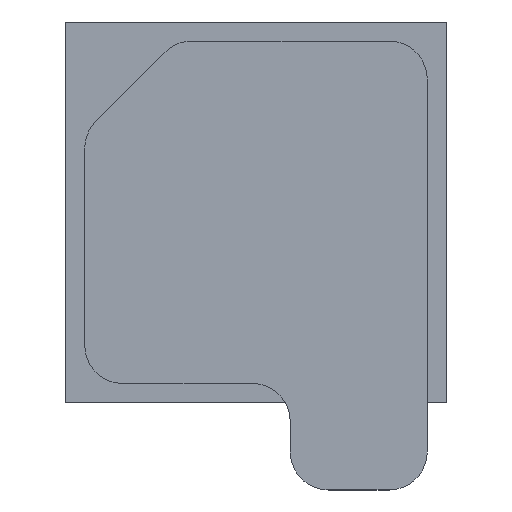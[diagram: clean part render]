
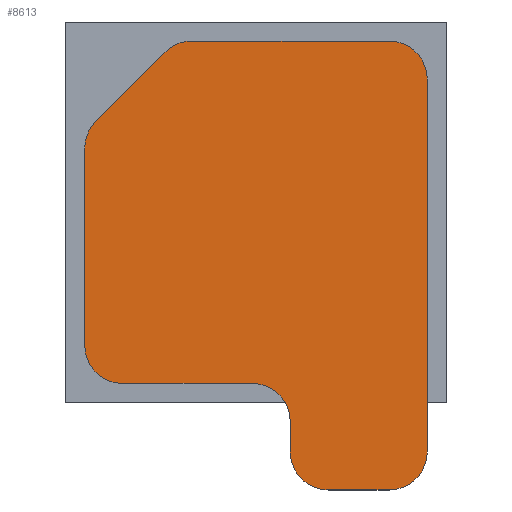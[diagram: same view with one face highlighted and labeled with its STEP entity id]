
A CAD part, top view. The second image highlights one B-rep face of the part: STEP entity #8613.
In plain terms, the highlighted planar face has unit normal (0, 0, 1) as drawn and (0, 1, 0) by its records, which use the part's own axes.
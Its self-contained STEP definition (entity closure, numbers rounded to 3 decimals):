
#8230=CARTESIAN_POINT('',(0.875,0.086,0.875));
#8231=DIRECTION('',(0.,1.,0.));
#8232=DIRECTION('',(0.,0.,1.));
#8233=AXIS2_PLACEMENT_3D('',#8230,#8231,#8232);
#8238=DIRECTION('',(1.,0.,0.));
#8239=VECTOR('',#8238,1.296);
#8240=CARTESIAN_POINT('',(-0.421,0.086,1.125));
#8241=LINE('',#8240,#8239);
#8245=CARTESIAN_POINT('',(-0.421,0.086,0.875));
#8246=DIRECTION('',(0.,1.,0.));
#8247=DIRECTION('',(-0.707,0.,0.707));
#8248=AXIS2_PLACEMENT_3D('',#8245,#8246,#8247);
#8253=DIRECTION('',(0.707,0.,0.707));
#8254=VECTOR('',#8253,0.641);
#8255=CARTESIAN_POINT('',(-1.052,0.086,0.598));
#8256=LINE('',#8255,#8254);
#8260=CARTESIAN_POINT('',(-0.875,0.086,0.421));
#8261=DIRECTION('',(0.,1.,0.));
#8262=DIRECTION('',(-1.,0.,0.));
#8263=AXIS2_PLACEMENT_3D('',#8260,#8261,#8262);
#8268=DIRECTION('',(0.,0.,1.));
#8269=VECTOR('',#8268,1.296);
#8270=CARTESIAN_POINT('',(-1.125,0.086,-0.875));
#8271=LINE('',#8270,#8269);
#8275=CARTESIAN_POINT('',(-0.875,0.086,-0.875));
#8276=DIRECTION('',(0.,1.,0.));
#8277=DIRECTION('',(0.,0.,-1.));
#8278=AXIS2_PLACEMENT_3D('',#8275,#8276,#8277);
#8283=DIRECTION('',(1.,0.,0.));
#8284=VECTOR('',#8283,2.45);
#8285=CARTESIAN_POINT('',(-0.875,0.086,-1.125));
#8286=LINE('',#8285,#8284);
#8290=CARTESIAN_POINT('',(1.575,0.086,-0.875));
#8291=DIRECTION('',(0.,1.,0.));
#8292=DIRECTION('',(1.,0.,0.));
#8293=AXIS2_PLACEMENT_3D('',#8290,#8291,#8292);
#8298=DIRECTION('',(0.,0.,-1.));
#8299=VECTOR('',#8298,0.4);
#8300=CARTESIAN_POINT('',(1.825,0.086,-0.475));
#8301=LINE('',#8300,#8299);
#8305=CARTESIAN_POINT('',(1.575,0.086,-0.475));
#8306=DIRECTION('',(0.,1.,0.));
#8307=DIRECTION('',(0.,0.,1.));
#8308=AXIS2_PLACEMENT_3D('',#8305,#8306,#8307);
#8313=DIRECTION('',(1.,0.,0.));
#8314=VECTOR('',#8313,0.2);
#8315=CARTESIAN_POINT('',(1.375,0.086,-0.225));
#8316=LINE('',#8315,#8314);
#8320=DIRECTION('',(0.,0.,-1.));
#8321=VECTOR('',#8320,0.85);
#8322=CARTESIAN_POINT('',(1.125,0.086,0.875));
#8323=LINE('',#8322,#8321);
#8390=CARTESIAN_POINT('',(1.375,0.086,0.025));
#8391=DIRECTION('',(0.,-1.,0.));
#8392=DIRECTION('',(-1.,0.,0.));
#8393=AXIS2_PLACEMENT_3D('',#8390,#8391,#8392);
#8420=CARTESIAN_POINT('',(1.125,0.086,0.025));
#8422=VERTEX_POINT('',#8420);
#8424=CARTESIAN_POINT('',(1.375,0.086,-0.225));
#8426=VERTEX_POINT('',#8424);
#8432=CARTESIAN_POINT('',(0.875,0.086,1.125));
#8433=VERTEX_POINT('',#8432);
#8434=CARTESIAN_POINT('',(1.125,0.086,0.875));
#8435=VERTEX_POINT('',#8434);
#8440=CARTESIAN_POINT('',(1.825,0.086,-0.875));
#8441=VERTEX_POINT('',#8440);
#8442=CARTESIAN_POINT('',(1.575,0.086,-1.125));
#8443=VERTEX_POINT('',#8442);
#8448=CARTESIAN_POINT('',(1.575,0.086,-0.225));
#8449=VERTEX_POINT('',#8448);
#8450=CARTESIAN_POINT('',(1.825,0.086,-0.475));
#8451=VERTEX_POINT('',#8450);
#8456=CARTESIAN_POINT('',(-1.125,0.086,-0.875));
#8457=CARTESIAN_POINT('',(-1.125,0.086,0.421));
#8458=VERTEX_POINT('',#8456);
#8459=VERTEX_POINT('',#8457);
#8462=CARTESIAN_POINT('',(-0.421,0.086,1.125));
#8463=VERTEX_POINT('',#8462);
#8466=CARTESIAN_POINT('',(-0.875,0.086,-1.125));
#8467=VERTEX_POINT('',#8466);
#8470=CARTESIAN_POINT('',(-0.598,0.086,1.052));
#8471=VERTEX_POINT('',#8470);
#8472=CARTESIAN_POINT('',(-1.052,0.086,0.598));
#8473=VERTEX_POINT('',#8472);
#8583=CARTESIAN_POINT('',(0.,0.086,0.));
#8584=DIRECTION('',(0.,1.,0.));
#8585=DIRECTION('',(1.,0.,0.));
#8586=AXIS2_PLACEMENT_3D('',#8583,#8584,#8585);
#8587=PLANE('',#8586);
#8588=ORIENTED_EDGE('',*,*,#8520,.F.);
#8589=ORIENTED_EDGE('',*,*,#8536,.F.);
#8590=ORIENTED_EDGE('',*,*,#8549,.F.);
#8591=ORIENTED_EDGE('',*,*,#8564,.F.);
#8592=ORIENTED_EDGE('',*,*,#8574,.F.);
#8594=ORIENTED_EDGE('',*,*,#8593,.F.);
#8596=ORIENTED_EDGE('',*,*,#8595,.F.);
#8598=ORIENTED_EDGE('',*,*,#8597,.T.);
#8600=ORIENTED_EDGE('',*,*,#8599,.F.);
#8602=ORIENTED_EDGE('',*,*,#8601,.F.);
#8604=ORIENTED_EDGE('',*,*,#8603,.F.);
#8606=ORIENTED_EDGE('',*,*,#8605,.F.);
#8608=ORIENTED_EDGE('',*,*,#8607,.F.);
#8610=ORIENTED_EDGE('',*,*,#8609,.F.);
#8611=EDGE_LOOP('',(#8588,#8589,#8590,#8591,#8592,#8594,#8596,#8598,#8600,#8602,
#8604,#8606,#8608,#8610));
#8612=FACE_OUTER_BOUND('',#8611,.F.);
#8613=ADVANCED_FACE('',(#8612),#8587,.T.);
#8234=CIRCLE('',#8233,0.25);
#8249=CIRCLE('',#8248,0.25);
#8264=CIRCLE('',#8263,0.25);
#8279=CIRCLE('',#8278,0.25);
#8294=CIRCLE('',#8293,0.25);
#8309=CIRCLE('',#8308,0.25);
#8394=CIRCLE('',#8393,0.25);
#8520=EDGE_CURVE('',#8433,#8435,#8234,.T.);
#8536=EDGE_CURVE('',#8463,#8433,#8241,.T.);
#8549=EDGE_CURVE('',#8471,#8463,#8249,.T.);
#8564=EDGE_CURVE('',#8473,#8471,#8256,.T.);
#8574=EDGE_CURVE('',#8459,#8473,#8264,.T.);
#8593=EDGE_CURVE('',#8458,#8459,#8271,.T.);
#8595=EDGE_CURVE('',#8467,#8458,#8279,.T.);
#8597=EDGE_CURVE('',#8467,#8443,#8286,.T.);
#8599=EDGE_CURVE('',#8441,#8443,#8294,.T.);
#8601=EDGE_CURVE('',#8451,#8441,#8301,.T.);
#8603=EDGE_CURVE('',#8449,#8451,#8309,.T.);
#8605=EDGE_CURVE('',#8426,#8449,#8316,.T.);
#8607=EDGE_CURVE('',#8422,#8426,#8394,.T.);
#8609=EDGE_CURVE('',#8435,#8422,#8323,.T.);
